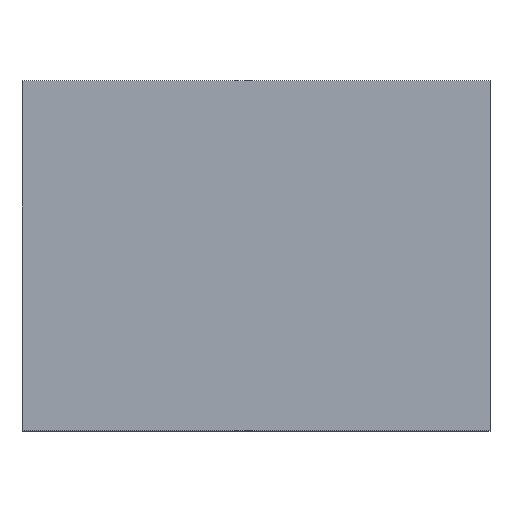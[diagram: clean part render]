
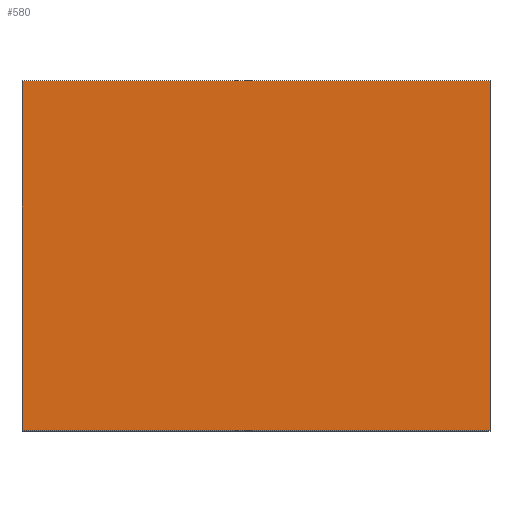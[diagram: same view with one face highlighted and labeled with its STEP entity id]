
A CAD part, top view. The second image highlights one B-rep face of the part: STEP entity #580.
In plain terms, the highlighted planar face has unit normal (0, 0, 1).
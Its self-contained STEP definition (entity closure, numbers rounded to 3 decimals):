
#47=FACE_OUTER_BOUND('',#81,.T.);
#81=EDGE_LOOP('',(#486,#487,#488,#489));
#147=LINE('',#885,#219);
#150=LINE('',#890,#222);
#151=LINE('',#893,#223);
#153=LINE('',#896,#225);
#219=VECTOR('',#732,11.5);
#222=VECTOR('',#737,8.6);
#223=VECTOR('',#740,8.6);
#225=VECTOR('',#744,11.5);
#270=VERTEX_POINT('',#882);
#271=VERTEX_POINT('',#884);
#272=VERTEX_POINT('',#888);
#273=VERTEX_POINT('',#892);
#339=EDGE_CURVE('',#271,#270,#147,.T.);
#342=EDGE_CURVE('',#270,#272,#150,.T.);
#343=EDGE_CURVE('',#273,#271,#151,.T.);
#345=EDGE_CURVE('',#272,#273,#153,.T.);
#486=ORIENTED_EDGE('',*,*,#345,.T.);
#487=ORIENTED_EDGE('',*,*,#343,.T.);
#488=ORIENTED_EDGE('',*,*,#339,.T.);
#489=ORIENTED_EDGE('',*,*,#342,.T.);
#519=PLANE('',#612);
#580=ADVANCED_FACE('',(#47),#519,.T.);
#612=AXIS2_PLACEMENT_3D('',#897,#745,#746);
#732=DIRECTION('',(1.,0.,0.));
#737=DIRECTION('',(0.,1.,0.));
#740=DIRECTION('',(0.,-1.,0.));
#744=DIRECTION('',(-1.,0.,0.));
#745=DIRECTION('center_axis',(0.,0.,1.));
#746=DIRECTION('ref_axis',(1.,0.,0.));
#882=CARTESIAN_POINT('',(5.75,-4.3,10.2));
#884=CARTESIAN_POINT('',(-5.75,-4.3,10.2));
#885=CARTESIAN_POINT('',(5.75,-4.3,10.2));
#888=CARTESIAN_POINT('',(5.75,4.3,10.2));
#890=CARTESIAN_POINT('',(5.75,4.3,10.2));
#892=CARTESIAN_POINT('',(-5.75,4.3,10.2));
#893=CARTESIAN_POINT('',(-5.75,-4.3,10.2));
#896=CARTESIAN_POINT('',(-5.75,4.3,10.2));
#897=CARTESIAN_POINT('Origin',(0.,0.,10.2));
